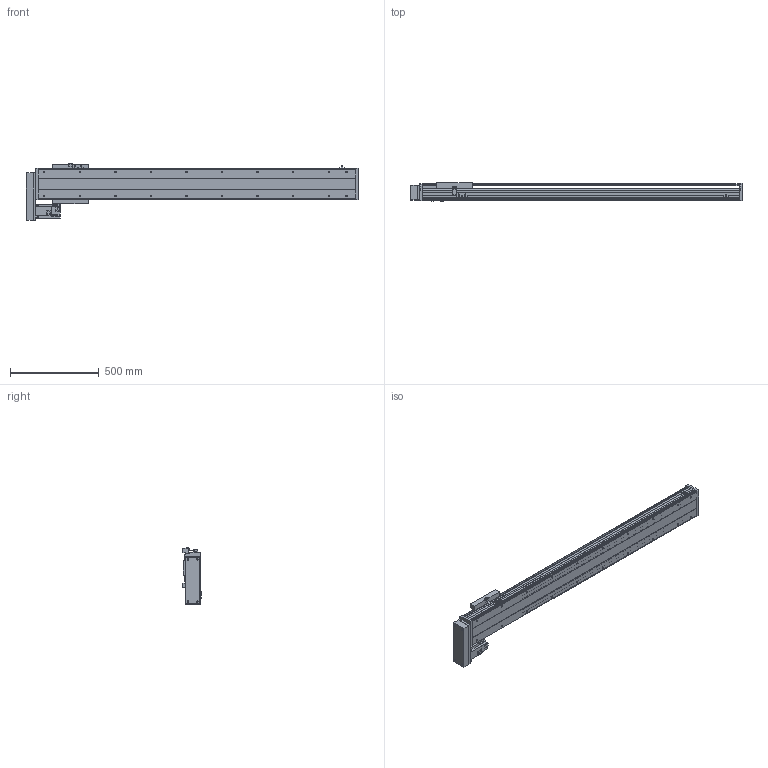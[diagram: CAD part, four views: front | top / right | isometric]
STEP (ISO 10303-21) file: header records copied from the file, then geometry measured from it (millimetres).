
FILE_DESCRIPTION( ( 'STEP AP214' ), '1' );
FILE_NAME( 'x:/temp/worker_6/temp/exporttempdir_5396_279_rClri/format_0/PSS200-L10-S1450-BR-T75-C1-N(0).stp', '2022-06-09T01:17:25', ( 'License CC BY-ND 4.0' ), ( 'CADENAS' ), ' ', 'PARTsolutions', ' ' );
FILE_SCHEMA( ( 'AUTOMOTIVE_DESIGN { 1 0 10303 214 1 1 1 1 }' ) );
Length unit declared in the file: millimetre
Products named in the file (8): PSS200-L10-S1450-BR-T75-C1-N(0); _PSS200-S1450-BR-C1-N_body; _PSS200-N_Q; _PSS200-BR-C1-N_sl; _PSS200-N_sensor; _PSS200BR-N_h; _T75-p1; _PSS200-S1450-BR-N_S
Assembly tree (9 placements, depth 2):
  PSS200-L10-S1450-BR-T75-C1-N(0)
    _PSS200-S1450-BR-C1-N_body
    _PSS200-N_Q
    _PSS200-BR-C1-N_sl
    _PSS200-N_sensor  x3
    _PSS200BR-N_h
    _T75-p1
    _PSS200-S1450-BR-N_S
Bounding box: 1866.85 x 105.3 x 317.86 mm (x, y, z)
Volume: 11425410.3 mm3; surface area: 2841153.8 mm2
Topology: 9 solids, 9 shells, 620 faces, 1657 edges, 1094 vertices
Faces by surface type: plane 466, cylinder 122, cone 28, sphere 4
Full cylindrical faces by diameter (mm): 4 x2, 4.5 x4, 6 x7, 6.647 x24, 7.4 x4, 8 x8, 10 x6, 25 x1, 40 x1, 67 x1
Entity records: 21630 total; most frequent: CARTESIAN_POINT 2939, DIRECTION 2852, ORIENTED_EDGE 2786, EDGE_CURVE 1393, LINE 1090, VECTOR 1090, VERTEX_POINT 968, AXIS2_PLACEMENT_3D 881
